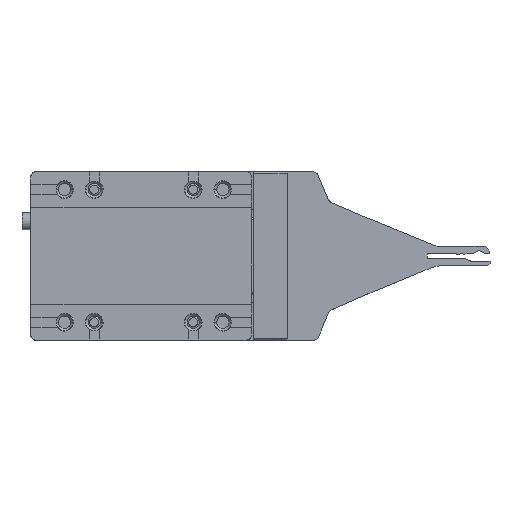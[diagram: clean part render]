
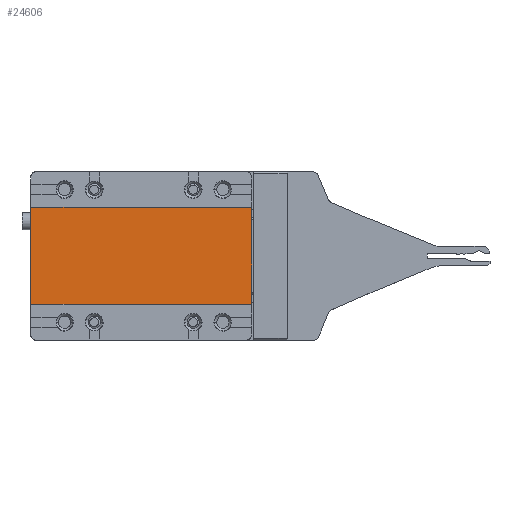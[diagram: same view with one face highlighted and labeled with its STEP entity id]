
A CAD part, top view. The second image highlights one B-rep face of the part: STEP entity #24606.
In plain terms, the highlighted planar face has unit normal (0, 0, 1).
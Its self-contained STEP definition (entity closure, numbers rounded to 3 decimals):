
#330 = VERTEX_POINT ( 'NONE', #10109 ) ;
#972 = VECTOR ( 'NONE', #38447, 1000. ) ;
#3590 = VERTEX_POINT ( 'NONE', #30442 ) ;
#3992 = ORIENTED_EDGE ( 'NONE', *, *, #12693, .T. ) ;
#6298 = VECTOR ( 'NONE', #13616, 1000. ) ;
#6981 = DIRECTION ( 'NONE',  ( 0., 0., 1. ) ) ;
#10022 = PLANE ( 'NONE',  #18645 ) ;
#10109 = CARTESIAN_POINT ( 'NONE',  ( 25.039, 21.772, 35.356 ) ) ;
#12693 = EDGE_CURVE ( 'NONE', #3590, #35796, #31853, .T. ) ;
#13616 = DIRECTION ( 'NONE',  ( -1., 0., 0. ) ) ;
#14434 = CARTESIAN_POINT ( 'NONE',  ( 2.839, 21.772, 35.356 ) ) ;
#15045 = EDGE_CURVE ( 'NONE', #330, #3590, #17597, .T. ) ;
#16556 = CARTESIAN_POINT ( 'NONE',  ( 2.739, 31.572, 35.356 ) ) ;
#17246 = LINE ( 'NONE', #14434, #25518 ) ;
#17597 = LINE ( 'NONE', #35651, #972 ) ;
#18645 = AXIS2_PLACEMENT_3D ( 'NONE', #34510, #6981, #24703 ) ;
#20637 = DIRECTION ( 'NONE',  ( 1., 0., 0. ) ) ;
#21391 = CARTESIAN_POINT ( 'NONE',  ( 2.739, 21.772, 35.356 ) ) ;
#23684 = ORIENTED_EDGE ( 'NONE', *, *, #26623, .T. ) ;
#24606 = ADVANCED_FACE ( 'NONE', ( #37705 ), #10022, .T. ) ;
#24703 = DIRECTION ( 'NONE',  ( 1., 0., 0. ) ) ;
#25518 = VECTOR ( 'NONE', #20637, 1000. ) ;
#25611 = CARTESIAN_POINT ( 'NONE',  ( 2.839, 31.572, 35.356 ) ) ;
#25931 = LINE ( 'NONE', #29535, #38967 ) ;
#26623 = EDGE_CURVE ( 'NONE', #31431, #330, #17246, .T. ) ;
#27438 = EDGE_LOOP ( 'NONE', ( #36014, #23684, #32337, #3992 ) ) ;
#29535 = CARTESIAN_POINT ( 'NONE',  ( 2.739, 31.572, 35.356 ) ) ;
#30442 = CARTESIAN_POINT ( 'NONE',  ( 25.039, 31.572, 35.356 ) ) ;
#31431 = VERTEX_POINT ( 'NONE', #21391 ) ;
#31853 = LINE ( 'NONE', #25611, #6298 ) ;
#32337 = ORIENTED_EDGE ( 'NONE', *, *, #15045, .T. ) ;
#34510 = CARTESIAN_POINT ( 'NONE',  ( 13.839, 26.672, 35.356 ) ) ;
#35544 = DIRECTION ( 'NONE',  ( 0., -1., 0. ) ) ;
#35651 = CARTESIAN_POINT ( 'NONE',  ( 25.039, 31.572, 35.356 ) ) ;
#35796 = VERTEX_POINT ( 'NONE', #16556 ) ;
#36014 = ORIENTED_EDGE ( 'NONE', *, *, #37531, .T. ) ;
#37531 = EDGE_CURVE ( 'NONE', #35796, #31431, #25931, .T. ) ;
#37705 = FACE_OUTER_BOUND ( 'NONE', #27438, .T. ) ;
#38447 = DIRECTION ( 'NONE',  ( 0., 1., 0. ) ) ;
#38967 = VECTOR ( 'NONE', #35544, 1000. ) ;
